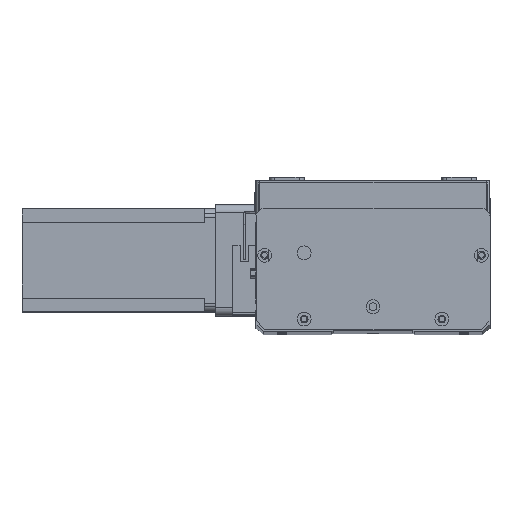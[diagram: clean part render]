
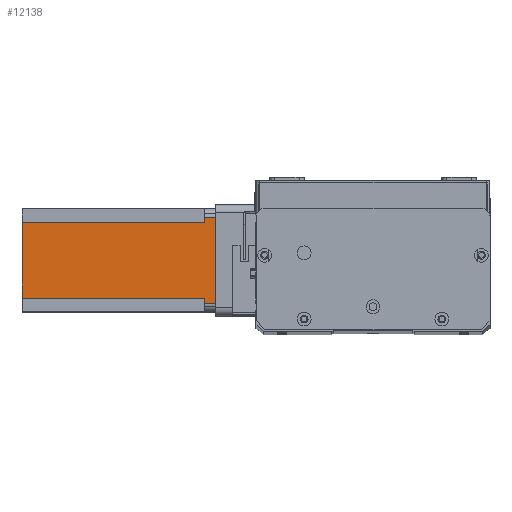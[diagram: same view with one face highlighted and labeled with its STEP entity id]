
A CAD part, top view. The second image highlights one B-rep face of the part: STEP entity #12138.
In plain terms, the highlighted planar face has unit normal (0, 0, 1) as drawn and (0, -1, 0) by its records, which use the part's own axes.
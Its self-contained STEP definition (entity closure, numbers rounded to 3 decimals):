
#50 = CARTESIAN_POINT ( 'NONE',  ( 8., 0., -6.5 ) ) ;
#86 = LINE ( 'NONE', #23861, #10118 ) ;
#871 = VECTOR ( 'NONE', #3316, 1000. ) ;
#1147 = LINE ( 'NONE', #22826, #20481 ) ;
#1717 = VECTOR ( 'NONE', #19432, 1000. ) ;
#1798 = ORIENTED_EDGE ( 'NONE', *, *, #17160, .F. ) ;
#2722 = VECTOR ( 'NONE', #23897, 1000. ) ;
#3316 = DIRECTION ( 'NONE',  ( 0., 0., 1. ) ) ;
#3475 = CARTESIAN_POINT ( 'NONE',  ( 0., 0., -112.5 ) ) ;
#3620 = CARTESIAN_POINT ( 'NONE',  ( 8., 0., -112.5 ) ) ;
#3862 = DIRECTION ( 'NONE',  ( 0., -1., 0. ) ) ;
#4094 = CARTESIAN_POINT ( 'NONE',  ( 0., 0., 0. ) ) ;
#5543 = ORIENTED_EDGE ( 'NONE', *, *, #25646, .T. ) ;
#5583 = EDGE_CURVE ( 'NONE', #22105, #7439, #23073, .T. ) ;
#5806 = DIRECTION ( 'NONE',  ( 0., 0., 1. ) ) ;
#6059 = VERTEX_POINT ( 'NONE', #8479 ) ;
#6102 = DIRECTION ( 'NONE',  ( 1., 0., 0. ) ) ;
#6514 = AXIS2_PLACEMENT_3D ( 'NONE', #9840, #3862, #17824 ) ;
#7439 = VERTEX_POINT ( 'NONE', #25300 ) ;
#8056 = LINE ( 'NONE', #23805, #2722 ) ;
#8309 = DIRECTION ( 'NONE',  ( 0., 0., -1. ) ) ;
#8479 = CARTESIAN_POINT ( 'NONE',  ( 55., 0., -6.5 ) ) ;
#9023 = VERTEX_POINT ( 'NONE', #3620 ) ;
#9117 = EDGE_CURVE ( 'NONE', #6059, #10472, #86, .T. ) ;
#9546 = ORIENTED_EDGE ( 'NONE', *, *, #12785, .F. ) ;
#9840 = CARTESIAN_POINT ( 'NONE',  ( 0., 0., -112.5 ) ) ;
#10118 = VECTOR ( 'NONE', #5806, 1000. ) ;
#10472 = VERTEX_POINT ( 'NONE', #11804 ) ;
#10958 = EDGE_LOOP ( 'NONE', ( #21709, #15068, #1798, #5543, #22756, #24687, #22371, #9546 ) ) ;
#11459 = LINE ( 'NONE', #14242, #21407 ) ;
#11644 = LINE ( 'NONE', #4094, #21591 ) ;
#11804 = CARTESIAN_POINT ( 'NONE',  ( 55., 0., 0. ) ) ;
#11819 = PLANE ( 'NONE',  #6514 ) ;
#12038 = VERTEX_POINT ( 'NONE', #13483 ) ;
#12138 = ADVANCED_FACE ( 'NONE', ( #21797 ), #11819, .T. ) ;
#12697 = DIRECTION ( 'NONE',  ( -1., 0., 0. ) ) ;
#12770 = CARTESIAN_POINT ( 'NONE',  ( 8., 0., -6.5 ) ) ;
#12785 = EDGE_CURVE ( 'NONE', #12038, #15371, #8056, .T. ) ;
#13483 = CARTESIAN_POINT ( 'NONE',  ( 52., 0., -6.5 ) ) ;
#13914 = CARTESIAN_POINT ( 'NONE',  ( 52., 0., -112.5 ) ) ;
#14242 = CARTESIAN_POINT ( 'NONE',  ( 5., 0., -112.5 ) ) ;
#14460 = EDGE_CURVE ( 'NONE', #12038, #6059, #1147, .T. ) ;
#15068 = ORIENTED_EDGE ( 'NONE', *, *, #9117, .T. ) ;
#15281 = CARTESIAN_POINT ( 'NONE',  ( 8., 0., -112.5 ) ) ;
#15371 = VERTEX_POINT ( 'NONE', #13914 ) ;
#15950 = VERTEX_POINT ( 'NONE', #18192 ) ;
#17160 = EDGE_CURVE ( 'NONE', #15950, #10472, #11644, .T. ) ;
#17824 = DIRECTION ( 'NONE',  ( 0., 0., -1. ) ) ;
#18112 = EDGE_CURVE ( 'NONE', #9023, #15371, #22951, .T. ) ;
#18192 = CARTESIAN_POINT ( 'NONE',  ( 5., 0., 0. ) ) ;
#19432 = DIRECTION ( 'NONE',  ( 1., 0., 0. ) ) ;
#20481 = VECTOR ( 'NONE', #20806, 1000. ) ;
#20806 = DIRECTION ( 'NONE',  ( 1., 0., 0. ) ) ;
#21407 = VECTOR ( 'NONE', #8309, 1000. ) ;
#21452 = LINE ( 'NONE', #15281, #871 ) ;
#21591 = VECTOR ( 'NONE', #6102, 1000. ) ;
#21709 = ORIENTED_EDGE ( 'NONE', *, *, #14460, .T. ) ;
#21797 = FACE_OUTER_BOUND ( 'NONE', #10958, .T. ) ;
#22105 = VERTEX_POINT ( 'NONE', #50 ) ;
#22371 = ORIENTED_EDGE ( 'NONE', *, *, #18112, .T. ) ;
#22756 = ORIENTED_EDGE ( 'NONE', *, *, #5583, .F. ) ;
#22826 = CARTESIAN_POINT ( 'NONE',  ( 52., 0., -6.5 ) ) ;
#22951 = LINE ( 'NONE', #3475, #1717 ) ;
#23073 = LINE ( 'NONE', #12770, #24358 ) ;
#23451 = EDGE_CURVE ( 'NONE', #9023, #22105, #21452, .T. ) ;
#23805 = CARTESIAN_POINT ( 'NONE',  ( 52., 0., -112.5 ) ) ;
#23861 = CARTESIAN_POINT ( 'NONE',  ( 55., 0., -112.5 ) ) ;
#23897 = DIRECTION ( 'NONE',  ( 0., 0., -1. ) ) ;
#24358 = VECTOR ( 'NONE', #12697, 1000. ) ;
#24687 = ORIENTED_EDGE ( 'NONE', *, *, #23451, .F. ) ;
#25300 = CARTESIAN_POINT ( 'NONE',  ( 5., 0., -6.5 ) ) ;
#25646 = EDGE_CURVE ( 'NONE', #15950, #7439, #11459, .T. ) ;
